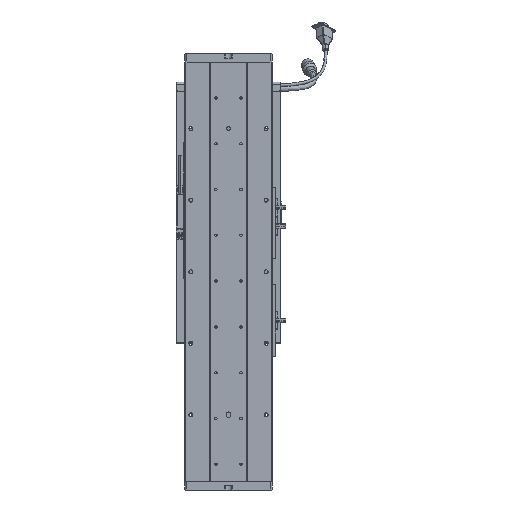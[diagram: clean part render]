
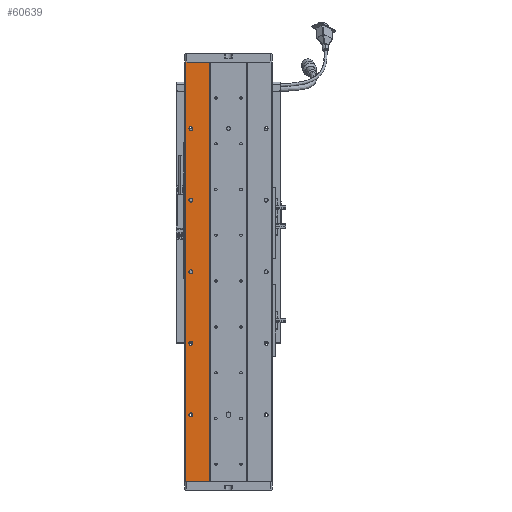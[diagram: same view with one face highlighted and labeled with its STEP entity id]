
A CAD part, front view. The second image highlights one B-rep face of the part: STEP entity #60639.
In plain terms, the highlighted planar face has unit normal (0, -1, 0).
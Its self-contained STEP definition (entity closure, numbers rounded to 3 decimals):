
#1010 = FACE_BOUND ( 'NONE', #41923, .T. ) ;
#1076 = ORIENTED_EDGE ( 'NONE', *, *, #27214, .T. ) ;
#1191 = CIRCLE ( 'NONE', #69247, 2.75 ) ;
#1205 = EDGE_LOOP ( 'NONE', ( #43587, #44572, #55224, #40142 ) ) ;
#1213 = DIRECTION ( 'NONE',  ( 0., 0., 1. ) ) ;
#1790 = ORIENTED_EDGE ( 'NONE', *, *, #26918, .T. ) ;
#1880 = EDGE_CURVE ( 'NONE', #34732, #43033, #9165, .T. ) ;
#2272 = DIRECTION ( 'NONE',  ( 0., 1., 0. ) ) ;
#3351 = AXIS2_PLACEMENT_3D ( 'NONE', #34440, #17189, #51206 ) ;
#3551 = EDGE_LOOP ( 'NONE', ( #31684, #69887 ) ) ;
#3811 = VERTEX_POINT ( 'NONE', #35630 ) ;
#4133 = CARTESIAN_POINT ( 'NONE',  ( 102.625, 76.768, 293. ) ) ;
#5613 = VECTOR ( 'NONE', #32233, 1000. ) ;
#6897 = CARTESIAN_POINT ( 'NONE',  ( 102.625, 76.768, 395.75 ) ) ;
#8295 = CARTESIAN_POINT ( 'NONE',  ( 84.971, 76.768, 586. ) ) ;
#9165 = LINE ( 'NONE', #66253, #5613 ) ;
#10557 = DIRECTION ( 'NONE',  ( 0., 0., 1. ) ) ;
#10743 = DIRECTION ( 'NONE',  ( 0., 1., 0. ) ) ;
#11204 = DIRECTION ( 'NONE',  ( 0., 1., 0. ) ) ;
#11969 = ORIENTED_EDGE ( 'NONE', *, *, #61665, .T. ) ;
#12605 = LINE ( 'NONE', #8295, #47504 ) ;
#14458 = FACE_BOUND ( 'NONE', #43602, .T. ) ;
#15318 = VERTEX_POINT ( 'NONE', #16919 ) ;
#16919 = CARTESIAN_POINT ( 'NONE',  ( 128.625, 76.768, 586. ) ) ;
#17189 = DIRECTION ( 'NONE',  ( 0., 1., 0. ) ) ;
#17476 = CARTESIAN_POINT ( 'NONE',  ( 102.625, 76.768, 490.25 ) ) ;
#17709 = CARTESIAN_POINT ( 'NONE',  ( 102.625, 76.768, 493. ) ) ;
#17718 = AXIS2_PLACEMENT_3D ( 'NONE', #45905, #34857, #68875 ) ;
#18733 = CARTESIAN_POINT ( 'NONE',  ( 102.625, 76.768, 193. ) ) ;
#18972 = ORIENTED_EDGE ( 'NONE', *, *, #26189, .T. ) ;
#19168 = VERTEX_POINT ( 'NONE', #28256 ) ;
#19383 = AXIS2_PLACEMENT_3D ( 'NONE', #17709, #11204, #51238 ) ;
#19511 = CARTESIAN_POINT ( 'NONE',  ( 102.625, 76.768, 290.25 ) ) ;
#20293 = CIRCLE ( 'NONE', #17718, 2.75 ) ;
#20387 = DIRECTION ( 'NONE',  ( 0., 0., 1. ) ) ;
#21774 = CARTESIAN_POINT ( 'NONE',  ( 102.625, 76.768, 190.25 ) ) ;
#22547 = DIRECTION ( 'NONE',  ( 0., 1., 0. ) ) ;
#23433 = EDGE_CURVE ( 'NONE', #37195, #49219, #66083, .T. ) ;
#24139 = DIRECTION ( 'NONE',  ( 0., 0., 1. ) ) ;
#24394 = DIRECTION ( 'NONE',  ( 0., 1., 0. ) ) ;
#24725 = DIRECTION ( 'NONE',  ( 0., 1., 0. ) ) ;
#24971 = CARTESIAN_POINT ( 'NONE',  ( 128.625, 76.768, 0. ) ) ;
#25047 = VERTEX_POINT ( 'NONE', #61427 ) ;
#25991 = AXIS2_PLACEMENT_3D ( 'NONE', #32394, #44371, #43878 ) ;
#26189 = EDGE_CURVE ( 'NONE', #3811, #69617, #49566, .T. ) ;
#26470 = ORIENTED_EDGE ( 'NONE', *, *, #49094, .T. ) ;
#26882 = DIRECTION ( 'NONE',  ( 0., 1., 0. ) ) ;
#26918 = EDGE_CURVE ( 'NONE', #25047, #34061, #31604, .T. ) ;
#27008 = CARTESIAN_POINT ( 'NONE',  ( 84.971, 76.768, 0. ) ) ;
#27214 = EDGE_CURVE ( 'NONE', #66321, #28517, #1191, .T. ) ;
#28142 = LINE ( 'NONE', #50413, #58581 ) ;
#28256 = CARTESIAN_POINT ( 'NONE',  ( 95.718, 76.768, 586. ) ) ;
#28517 = VERTEX_POINT ( 'NONE', #56807 ) ;
#28737 = CARTESIAN_POINT ( 'NONE',  ( 102.625, 76.768, 90.25 ) ) ;
#30855 = EDGE_CURVE ( 'NONE', #68170, #41404, #42780, .T. ) ;
#31604 = CIRCLE ( 'NONE', #19383, 2.75 ) ;
#31684 = ORIENTED_EDGE ( 'NONE', *, *, #48271, .T. ) ;
#31704 = AXIS2_PLACEMENT_3D ( 'NONE', #27008, #10743, #73064 ) ;
#32233 = DIRECTION ( 'NONE',  ( -1., 0., 0. ) ) ;
#32394 = CARTESIAN_POINT ( 'NONE',  ( 102.625, 76.768, 493. ) ) ;
#34061 = VERTEX_POINT ( 'NONE', #17476 ) ;
#34440 = CARTESIAN_POINT ( 'NONE',  ( 102.625, 76.768, 193. ) ) ;
#34732 = VERTEX_POINT ( 'NONE', #24971 ) ;
#34857 = DIRECTION ( 'NONE',  ( 0., 1., 0. ) ) ;
#35044 = FACE_BOUND ( 'NONE', #3551, .T. ) ;
#35630 = CARTESIAN_POINT ( 'NONE',  ( 102.625, 76.768, 390.25 ) ) ;
#37195 = VERTEX_POINT ( 'NONE', #21774 ) ;
#39249 = DIRECTION ( 'NONE',  ( 0., 0., 1. ) ) ;
#39649 = CIRCLE ( 'NONE', #3351, 2.75 ) ;
#40142 = ORIENTED_EDGE ( 'NONE', *, *, #72622, .F. ) ;
#41404 = VERTEX_POINT ( 'NONE', #28737 ) ;
#41730 = AXIS2_PLACEMENT_3D ( 'NONE', #58401, #24394, #24139 ) ;
#41923 = EDGE_LOOP ( 'NONE', ( #59044, #26470 ) ) ;
#42780 = CIRCLE ( 'NONE', #69907, 2.75 ) ;
#42934 = EDGE_LOOP ( 'NONE', ( #1790, #11969 ) ) ;
#43033 = VERTEX_POINT ( 'NONE', #66846 ) ;
#43587 = ORIENTED_EDGE ( 'NONE', *, *, #1880, .F. ) ;
#43602 = EDGE_LOOP ( 'NONE', ( #53876, #18972 ) ) ;
#43878 = DIRECTION ( 'NONE',  ( 0., 0., 1. ) ) ;
#44371 = DIRECTION ( 'NONE',  ( 0., 1., 0. ) ) ;
#44572 = ORIENTED_EDGE ( 'NONE', *, *, #71584, .F. ) ;
#44819 = CARTESIAN_POINT ( 'NONE',  ( 102.625, 76.768, 393. ) ) ;
#44865 = CIRCLE ( 'NONE', #41730, 2.75 ) ;
#45905 = CARTESIAN_POINT ( 'NONE',  ( 102.625, 76.768, 393. ) ) ;
#46707 = FACE_OUTER_BOUND ( 'NONE', #1205, .T. ) ;
#47114 = DIRECTION ( 'NONE',  ( 0., 0., 1. ) ) ;
#47504 = VECTOR ( 'NONE', #72092, 1000. ) ;
#48271 = EDGE_CURVE ( 'NONE', #49219, #37195, #39649, .T. ) ;
#49094 = EDGE_CURVE ( 'NONE', #41404, #68170, #70002, .T. ) ;
#49219 = VERTEX_POINT ( 'NONE', #54550 ) ;
#49566 = CIRCLE ( 'NONE', #60556, 2.75 ) ;
#49573 = EDGE_CURVE ( 'NONE', #28517, #66321, #44865, .T. ) ;
#50260 = PLANE ( 'NONE',  #31704 ) ;
#50413 = CARTESIAN_POINT ( 'NONE',  ( 128.625, 76.768, 586. ) ) ;
#51206 = DIRECTION ( 'NONE',  ( 0., 0., 1. ) ) ;
#51238 = DIRECTION ( 'NONE',  ( 0., 0., 1. ) ) ;
#53236 = AXIS2_PLACEMENT_3D ( 'NONE', #58327, #2272, #47114 ) ;
#53876 = ORIENTED_EDGE ( 'NONE', *, *, #69973, .T. ) ;
#54550 = CARTESIAN_POINT ( 'NONE',  ( 102.625, 76.768, 195.75 ) ) ;
#55224 = ORIENTED_EDGE ( 'NONE', *, *, #62161, .T. ) ;
#55383 = CARTESIAN_POINT ( 'NONE',  ( 102.625, 76.768, 95.75 ) ) ;
#56807 = CARTESIAN_POINT ( 'NONE',  ( 102.625, 76.768, 295.75 ) ) ;
#58327 = CARTESIAN_POINT ( 'NONE',  ( 102.625, 76.768, 93. ) ) ;
#58401 = CARTESIAN_POINT ( 'NONE',  ( 102.625, 76.768, 293. ) ) ;
#58581 = VECTOR ( 'NONE', #72971, 1000. ) ;
#59044 = ORIENTED_EDGE ( 'NONE', *, *, #30855, .T. ) ;
#59482 = AXIS2_PLACEMENT_3D ( 'NONE', #18733, #24725, #1213 ) ;
#60556 = AXIS2_PLACEMENT_3D ( 'NONE', #44819, #22547, #10557 ) ;
#60639 = ADVANCED_FACE ( 'NONE', ( #69945, #14458, #1010, #35044, #73550, #46707 ), #50260, .F. ) ;
#60758 = DIRECTION ( 'NONE',  ( 0., 0., 1. ) ) ;
#61427 = CARTESIAN_POINT ( 'NONE',  ( 102.625, 76.768, 495.75 ) ) ;
#61665 = EDGE_CURVE ( 'NONE', #34061, #25047, #71767, .T. ) ;
#62161 = EDGE_CURVE ( 'NONE', #15318, #19168, #12605, .T. ) ;
#65619 = VECTOR ( 'NONE', #60758, 1000. ) ;
#66083 = CIRCLE ( 'NONE', #59482, 2.75 ) ;
#66253 = CARTESIAN_POINT ( 'NONE',  ( 0., 76.768, 0. ) ) ;
#66321 = VERTEX_POINT ( 'NONE', #19511 ) ;
#66846 = CARTESIAN_POINT ( 'NONE',  ( 95.718, 76.768, 0. ) ) ;
#67527 = CARTESIAN_POINT ( 'NONE',  ( 95.718, 76.768, 586. ) ) ;
#68170 = VERTEX_POINT ( 'NONE', #55383 ) ;
#68358 = LINE ( 'NONE', #67527, #65619 ) ;
#68875 = DIRECTION ( 'NONE',  ( 0., 0., 1. ) ) ;
#69247 = AXIS2_PLACEMENT_3D ( 'NONE', #4133, #26882, #20387 ) ;
#69617 = VERTEX_POINT ( 'NONE', #6897 ) ;
#69887 = ORIENTED_EDGE ( 'NONE', *, *, #23433, .T. ) ;
#69907 = AXIS2_PLACEMENT_3D ( 'NONE', #74021, #73288, #39249 ) ;
#69945 = FACE_BOUND ( 'NONE', #42934, .T. ) ;
#69973 = EDGE_CURVE ( 'NONE', #69617, #3811, #20293, .T. ) ;
#70002 = CIRCLE ( 'NONE', #53236, 2.75 ) ;
#70304 = EDGE_LOOP ( 'NONE', ( #72588, #1076 ) ) ;
#71584 = EDGE_CURVE ( 'NONE', #15318, #34732, #28142, .T. ) ;
#71767 = CIRCLE ( 'NONE', #25991, 2.75 ) ;
#72092 = DIRECTION ( 'NONE',  ( -1., 0., 0. ) ) ;
#72588 = ORIENTED_EDGE ( 'NONE', *, *, #49573, .T. ) ;
#72622 = EDGE_CURVE ( 'NONE', #43033, #19168, #68358, .T. ) ;
#72971 = DIRECTION ( 'NONE',  ( 0., 0., -1. ) ) ;
#73064 = DIRECTION ( 'NONE',  ( 0., 0., 1. ) ) ;
#73288 = DIRECTION ( 'NONE',  ( 0., 1., 0. ) ) ;
#73550 = FACE_BOUND ( 'NONE', #70304, .T. ) ;
#74021 = CARTESIAN_POINT ( 'NONE',  ( 102.625, 76.768, 93. ) ) ;
